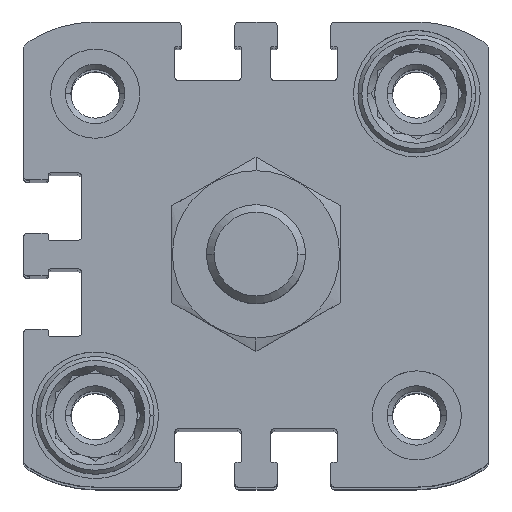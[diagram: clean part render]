
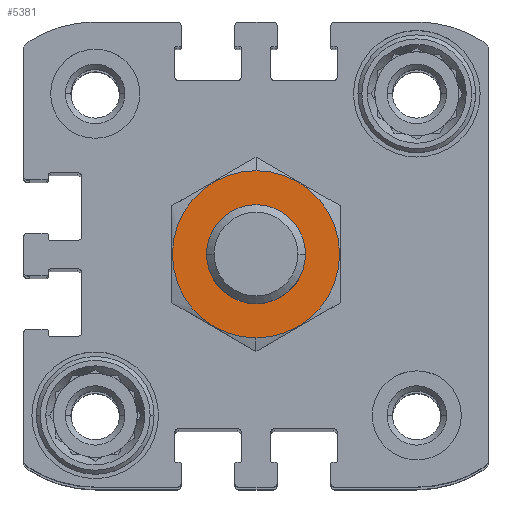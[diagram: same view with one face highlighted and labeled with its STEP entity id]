
A CAD part, top view. The second image highlights one B-rep face of the part: STEP entity #5381.
In plain terms, the highlighted planar face has unit normal (0, 0, 1) as drawn and (0, 1, 0) by its records, which use the part's own axes.
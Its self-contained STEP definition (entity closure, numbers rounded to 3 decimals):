
#932 = DIRECTION ( 'NONE',  ( 0., 0., 1. ) ) ;
#1747 = PLANE ( 'NONE',  #9768 ) ;
#1973 = DIRECTION ( 'NONE',  ( 0., -1., 0. ) ) ;
#2788 = DIRECTION ( 'NONE',  ( 0., -1., 0. ) ) ;
#3004 = CARTESIAN_POINT ( 'NONE',  ( 0., 0., 0. ) ) ;
#3139 = DIRECTION ( 'NONE',  ( 0., 1., 0. ) ) ;
#4011 = CARTESIAN_POINT ( 'NONE',  ( 0., 0., -8.45 ) ) ;
#4228 = EDGE_LOOP ( 'NONE', ( #8887, #7971 ) ) ;
#4390 = CARTESIAN_POINT ( 'NONE',  ( 0., 0., 8.45 ) ) ;
#4424 = EDGE_CURVE ( 'NONE', #14028, #15172, #5651, .T. ) ;
#5257 = VERTEX_POINT ( 'NONE', #4011 ) ;
#5288 = AXIS2_PLACEMENT_3D ( 'NONE', #10656, #3139, #11914 ) ;
#5381 = ADVANCED_FACE ( 'NONE', ( #11859, #15203 ), #1747, .F. ) ;
#5546 = DIRECTION ( 'NONE',  ( 0., 0., -1. ) ) ;
#5587 = VERTEX_POINT ( 'NONE', #4390 ) ;
#5622 = EDGE_CURVE ( 'NONE', #5587, #5257, #9122, .T. ) ;
#5651 = CIRCLE ( 'NONE', #15321, 5. ) ;
#6053 = CIRCLE ( 'NONE', #5288, 5. ) ;
#6078 = AXIS2_PLACEMENT_3D ( 'NONE', #10317, #2788, #11555 ) ;
#6403 = CIRCLE ( 'NONE', #6078, 8.45 ) ;
#6426 = CARTESIAN_POINT ( 'NONE',  ( 0., 0., -5. ) ) ;
#7435 = EDGE_CURVE ( 'NONE', #15172, #14028, #6053, .T. ) ;
#7971 = ORIENTED_EDGE ( 'NONE', *, *, #5622, .F. ) ;
#8452 = DIRECTION ( 'NONE',  ( 0., 1., 0. ) ) ;
#8498 = EDGE_LOOP ( 'NONE', ( #10303, #10467 ) ) ;
#8887 = ORIENTED_EDGE ( 'NONE', *, *, #10051, .F. ) ;
#9122 = CIRCLE ( 'NONE', #14486, 8.45 ) ;
#9489 = CARTESIAN_POINT ( 'NONE',  ( 0., 0., 0. ) ) ;
#9506 = CARTESIAN_POINT ( 'NONE',  ( 0., 0., 5. ) ) ;
#9768 = AXIS2_PLACEMENT_3D ( 'NONE', #3004, #13018, #5546 ) ;
#10051 = EDGE_CURVE ( 'NONE', #5257, #5587, #6403, .T. ) ;
#10303 = ORIENTED_EDGE ( 'NONE', *, *, #7435, .F. ) ;
#10317 = CARTESIAN_POINT ( 'NONE',  ( 0., 0., 0. ) ) ;
#10467 = ORIENTED_EDGE ( 'NONE', *, *, #4424, .F. ) ;
#10656 = CARTESIAN_POINT ( 'NONE',  ( 0., 0., 0. ) ) ;
#10754 = DIRECTION ( 'NONE',  ( 0., 0., -1. ) ) ;
#11555 = DIRECTION ( 'NONE',  ( 0., 0., -1. ) ) ;
#11859 = FACE_BOUND ( 'NONE', #8498, .T. ) ;
#11914 = DIRECTION ( 'NONE',  ( 0., 0., 1. ) ) ;
#13018 = DIRECTION ( 'NONE',  ( 0., -1., 0. ) ) ;
#14028 = VERTEX_POINT ( 'NONE', #6426 ) ;
#14486 = AXIS2_PLACEMENT_3D ( 'NONE', #9489, #1973, #10754 ) ;
#15172 = VERTEX_POINT ( 'NONE', #9506 ) ;
#15203 = FACE_OUTER_BOUND ( 'NONE', #4228, .T. ) ;
#15321 = AXIS2_PLACEMENT_3D ( 'NONE', #15916, #8452, #932 ) ;
#15916 = CARTESIAN_POINT ( 'NONE',  ( 0., 0., 0. ) ) ;
